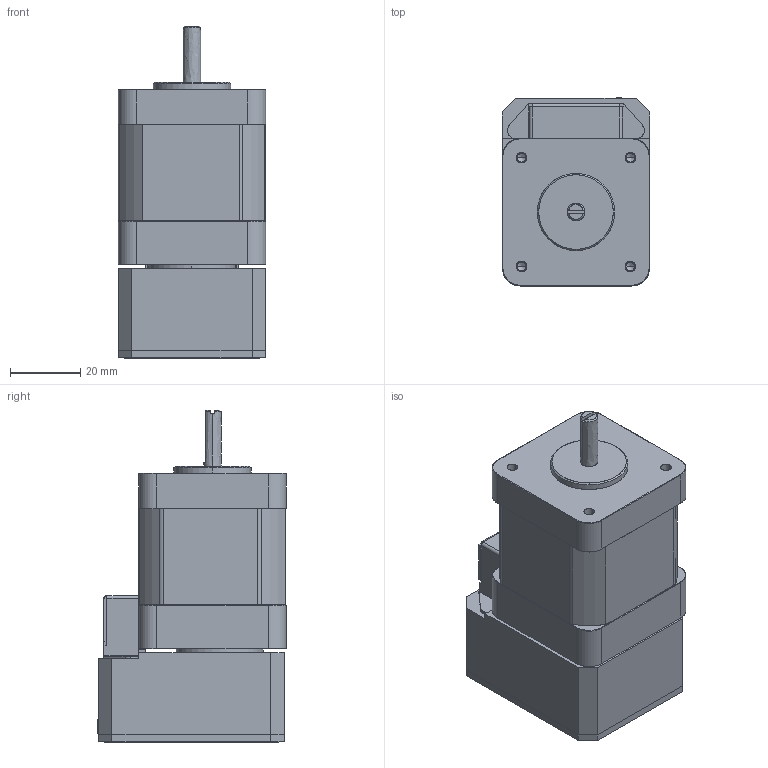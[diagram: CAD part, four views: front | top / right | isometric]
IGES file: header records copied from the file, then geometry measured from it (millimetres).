
Start section: SolidWorks IGES file using analytic representation for surfaces
Global section: file name: C:\Users\render\Documents\CAD Files\CM1 Series CAD\CM1-17L\CM1-X-17L30.IGS; native system: SolidWorks 2009; preprocessor: SolidWorks 2009; author: render; date: 100517.094603; units: millimetre
Bounding box: 42.03 x 53.68 x 94.71 mm (x, y, z)
Surface area: 42807.4 mm2 (no closed solid volume)
Topology: 0 solids, 0 shells, 760 faces, 6528 edges, 6520 vertices
Faces by surface type: bspline 576, revolution 184
